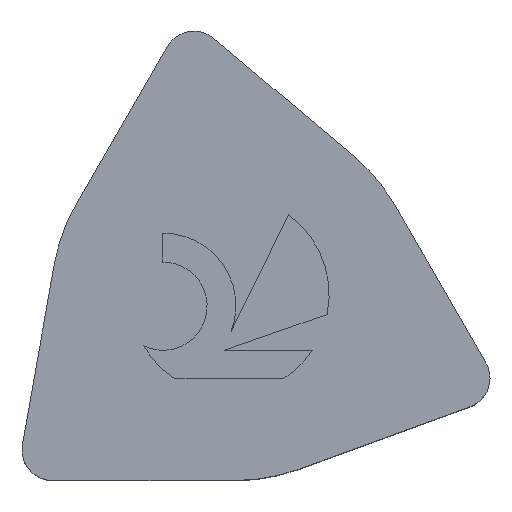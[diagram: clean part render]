
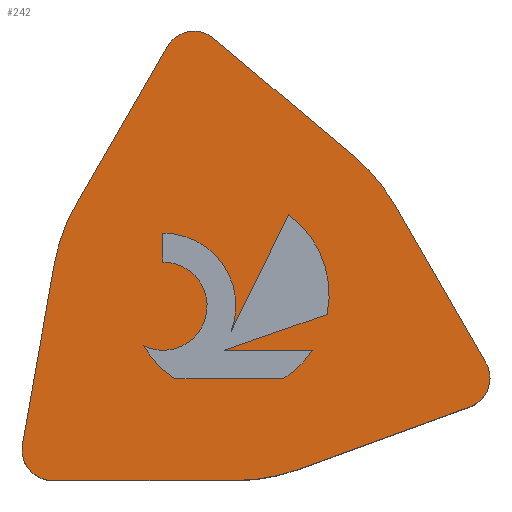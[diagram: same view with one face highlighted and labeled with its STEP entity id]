
A CAD part, top view. The second image highlights one B-rep face of the part: STEP entity #242.
In plain terms, the highlighted planar face has unit normal (0, 0, 1).
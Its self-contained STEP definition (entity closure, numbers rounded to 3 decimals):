
#166=VERTEX_POINT('',#466);
#170=VERTEX_POINT('',#471);
#172=VERTEX_POINT('',#473);
#174=EDGE_CURVE('',#428,#380,#475,.T.);
#176=VERTEX_POINT('',#477);
#180=VERTEX_POINT('',#482);
#186=VERTEX_POINT('',#488);
#188=EDGE_CURVE('',#426,#296,#490,.T.);
#190=EDGE_CURVE('',#442,#166,#492,.T.);
#210=VERTEX_POINT('',#515);
#214=VERTEX_POINT('',#519);
#218=VERTEX_POINT('',#523);
#220=EDGE_CURVE('',#268,#180,#525,.T.);
#222=EDGE_CURVE('',#422,#442,#527,.T.);
#228=VERTEX_POINT('',#533);
#230=EDGE_CURVE('',#180,#170,#535,.T.);
#234=EDGE_CURVE('',#210,#254,#539,.T.);
#242=ADVANCED_FACE('',(#548,#549),#550,.T.);
#250=EDGE_CURVE('',#366,#426,#558,.T.);
#254=VERTEX_POINT('',#562);
#264=EDGE_CURVE('',#254,#172,#573,.T.);
#266=EDGE_CURVE('',#218,#210,#575,.T.);
#268=VERTEX_POINT('',#577);
#272=EDGE_CURVE('',#332,#428,#581,.T.);
#288=EDGE_CURVE('',#214,#228,#599,.T.);
#296=VERTEX_POINT('',#609);
#312=EDGE_CURVE('',#166,#332,#626,.T.);
#314=EDGE_CURVE('',#186,#176,#628,.T.);
#316=EDGE_CURVE('',#296,#344,#630,.T.);
#332=VERTEX_POINT('',#650);
#344=VERTEX_POINT('',#662);
#354=EDGE_CURVE('',#380,#378,#674,.T.);
#358=VERTEX_POINT('',#678);
#366=VERTEX_POINT('',#687);
#372=EDGE_CURVE('',#228,#358,#693,.T.);
#378=VERTEX_POINT('',#700);
#380=VERTEX_POINT('',#702);
#396=EDGE_CURVE('',#172,#366,#719,.T.);
#414=EDGE_CURVE('',#358,#186,#741,.T.);
#416=EDGE_CURVE('',#176,#422,#743,.T.);
#418=EDGE_CURVE('',#344,#268,#745,.T.);
#422=VERTEX_POINT('',#749);
#426=VERTEX_POINT('',#753);
#428=VERTEX_POINT('',#755);
#432=EDGE_CURVE('',#378,#214,#759,.T.);
#442=VERTEX_POINT('',#769);
#444=EDGE_CURVE('',#170,#218,#771,.T.);
#466=CARTESIAN_POINT('',(8.737,8.411,0.0));
#471=CARTESIAN_POINT('',(4.316,5.535,0.0));
#473=CARTESIAN_POINT('',(7.06,6.885,0.0));
#475=LINE('',#793,#794);
#477=CARTESIAN_POINT('',(11.749,1.905,0.0));
#482=CARTESIAN_POINT('',(3.294,3.493,0.0));
#488=CARTESIAN_POINT('',(7.305,0.287,0.0));
#490=LINE('',#811,#812);
#492=CIRCLE('',#815,4.762);
#515=CARTESIAN_POINT('',(3.798,6.406,0.0));
#519=CARTESIAN_POINT('',(0.164,0.932,0.0));
#523=CARTESIAN_POINT('',(3.798,5.655,0.0));
#525=CIRCLE('',#863,2.586);
#527=LINE('',#866,#867);
#533=CARTESIAN_POINT('',(0.946,0.0,0.0));
#535=CIRCLE('',#877,1.141);
#539=CIRCLE('',#883,1.878);
#548=FACE_BOUND('',#895,.T.);
#549=FACE_OUTER_BOUND('',#896,.T.);
#550=PLANE('',#897);
#558=LINE('',#908,#909);
#562=CARTESIAN_POINT('',(5.565,3.853,0.0));
#573=LINE('',#927,#928);
#575=LINE('',#931,#932);
#577=CARTESIAN_POINT('',(4.112,2.64,0.0));
#581=CIRCLE('',#939,0.794);
#599=CIRCLE('',#966,0.794);
#609=CARTESIAN_POINT('',(7.674,3.376,0.0));
#626=LINE('',#1006,#1007);
#628=LINE('',#1010,#1011);
#630=CIRCLE('',#1014,2.586);
#650=CARTESIAN_POINT('',(5.114,11.451,0.0));
#662=CARTESIAN_POINT('',(6.93,2.64,0.0));
#674=CIRCLE('',#1070,4.763);
#678=CARTESIAN_POINT('',(5.676,0.0,0.0));
#687=CARTESIAN_POINT('',(8.057,4.302,0.0));
#693=LINE('',#1095,#1096);
#700=CARTESIAN_POINT('',(0.986,5.589,0.0));
#702=CARTESIAN_POINT('',(1.551,7.144,0.0));
#719=CIRCLE('',#1127,2.586);
#741=CIRCLE('',#1156,4.763);
#743=CIRCLE('',#1159,0.794);
#745=LINE('',#1162,#1163);
#749=CARTESIAN_POINT('',(12.165,3.048,0.0));
#753=CARTESIAN_POINT('',(5.39,3.376,0.0));
#755=CARTESIAN_POINT('',(3.916,11.24,0.0));
#759=LINE('',#1183,#1184);
#769=CARTESIAN_POINT('',(9.8,7.144,0.0));
#771=CIRCLE('',#1201,1.141);
#793=CARTESIAN_POINT('',(3.916,11.24,0.0));
#794=VECTOR('',#1215,1.0);
#811=CARTESIAN_POINT('',(6.675,3.376,0.0));
#812=VECTOR('',#1235,1.0);
#815=AXIS2_PLACEMENT_3D('',#1236,#1237,#1238);
#863=AXIS2_PLACEMENT_3D('',#1270,#1271,#1272);
#866=CARTESIAN_POINT('',(12.165,3.048,0.0));
#867=VECTOR('',#1273,1.0);
#877=AXIS2_PLACEMENT_3D('',#1277,#1278,#1279);
#883=AXIS2_PLACEMENT_3D('',#1283,#1284,#1285);
#895=EDGE_LOOP('',(#1299,#1300,#1301,#1302,#1303,#1304,#1305,#1306,#1307,#1308,#1309));
#896=EDGE_LOOP('',(#1310,#1311,#1312,#1313,#1314,#1315,#1316,#1317,#1318,#1319,#1320,#1321));
#897=AXIS2_PLACEMENT_3D('',#1322,#1323,#1324);
#908=CARTESIAN_POINT('',(5.732,3.495,0.0));
#909=VECTOR('',#1326,1.0);
#927=CARTESIAN_POINT('',(6.504,5.757,0.0));
#928=VECTOR('',#1336,1.0);
#931=CARTESIAN_POINT('',(3.798,5.584,0.0));
#932=VECTOR('',#1337,1.0);
#939=AXIS2_PLACEMENT_3D('',#1338,#1339,#1340);
#966=AXIS2_PLACEMENT_3D('',#1361,#1362,#1363);
#1006=CARTESIAN_POINT('',(8.737,8.411,0.0));
#1007=VECTOR('',#1394,1.0);
#1010=CARTESIAN_POINT('',(7.305,0.287,0.0));
#1011=VECTOR('',#1395,1.0);
#1014=AXIS2_PLACEMENT_3D('',#1396,#1397,#1398);
#1070=AXIS2_PLACEMENT_3D('',#1460,#1461,#1462);
#1095=CARTESIAN_POINT('',(0.946,0.0,0.0));
#1096=VECTOR('',#1475,1.0);
#1127=AXIS2_PLACEMENT_3D('',#1506,#1507,#1508);
#1156=AXIS2_PLACEMENT_3D('',#1544,#1545,#1546);
#1159=AXIS2_PLACEMENT_3D('',#1547,#1548,#1549);
#1162=CARTESIAN_POINT('',(4.894,2.64,0.0));
#1163=VECTOR('',#1550,1.0);
#1183=CARTESIAN_POINT('',(0.986,5.589,0.0));
#1184=VECTOR('',#1556,1.0);
#1201=AXIS2_PLACEMENT_3D('',#1564,#1565,#1566);
#1215=DIRECTION('',(-0.5,-0.866,0.0));
#1235=DIRECTION('',(1.0,0.0,0.0));
#1236=CARTESIAN_POINT('',(5.676,4.762,0.0));
#1237=DIRECTION('',(0.0,-0.0,1.0));
#1238=DIRECTION('',(0.866,0.5,0.0));
#1270=CARTESIAN_POINT('',(5.521,4.808,0.0));
#1271=DIRECTION('',(-0.0,0.0,-1.0));
#1272=DIRECTION('',(-0.861,-0.508,0.0));
#1273=DIRECTION('',(-0.5,0.866,0.0));
#1277=CARTESIAN_POINT('',(3.805,4.514,0.0));
#1278=DIRECTION('',(0.0,0.0,1.0));
#1279=DIRECTION('',(-0.447,-0.894,0.0));
#1283=CARTESIAN_POINT('',(3.812,4.528,0.0));
#1284=DIRECTION('',(0.0,-0.0,-1.0));
#1285=DIRECTION('',(0.933,-0.359,0.0));
#1299=ORIENTED_EDGE('',*,*,#266,.T.);
#1300=ORIENTED_EDGE('',*,*,#234,.T.);
#1301=ORIENTED_EDGE('',*,*,#264,.T.);
#1302=ORIENTED_EDGE('',*,*,#396,.T.);
#1303=ORIENTED_EDGE('',*,*,#250,.T.);
#1304=ORIENTED_EDGE('',*,*,#188,.T.);
#1305=ORIENTED_EDGE('',*,*,#316,.T.);
#1306=ORIENTED_EDGE('',*,*,#418,.T.);
#1307=ORIENTED_EDGE('',*,*,#220,.T.);
#1308=ORIENTED_EDGE('',*,*,#230,.T.);
#1309=ORIENTED_EDGE('',*,*,#444,.T.);
#1310=ORIENTED_EDGE('',*,*,#372,.T.);
#1311=ORIENTED_EDGE('',*,*,#414,.T.);
#1312=ORIENTED_EDGE('',*,*,#314,.T.);
#1313=ORIENTED_EDGE('',*,*,#416,.T.);
#1314=ORIENTED_EDGE('',*,*,#222,.T.);
#1315=ORIENTED_EDGE('',*,*,#190,.T.);
#1316=ORIENTED_EDGE('',*,*,#312,.T.);
#1317=ORIENTED_EDGE('',*,*,#272,.T.);
#1318=ORIENTED_EDGE('',*,*,#174,.T.);
#1319=ORIENTED_EDGE('',*,*,#354,.T.);
#1320=ORIENTED_EDGE('',*,*,#432,.T.);
#1321=ORIENTED_EDGE('',*,*,#288,.T.);
#1322=CARTESIAN_POINT('',(5.676,4.763,0.0));
#1323=DIRECTION('',(0.0,0.0,1.0));
#1324=DIRECTION('',(1.0,0.0,0.0));
#1326=DIRECTION('',(-0.945,-0.328,0.0));
#1336=DIRECTION('',(0.442,0.897,-0.0));
#1337=DIRECTION('',(0.0,1.0,0.0));
#1338=CARTESIAN_POINT('',(4.604,10.843,0.0));
#1339=DIRECTION('',(0.0,-0.0,1.0));
#1340=DIRECTION('',(0.643,0.766,0.0));
#1361=CARTESIAN_POINT('',(0.946,0.794,0.0));
#1362=DIRECTION('',(0.0,0.0,1.0));
#1363=DIRECTION('',(-0.985,0.174,0.0));
#1394=DIRECTION('',(-0.766,0.643,0.0));
#1395=DIRECTION('',(0.94,0.342,0.0));
#1396=CARTESIAN_POINT('',(5.521,4.808,0.0));
#1397=DIRECTION('',(0.0,-0.0,-1.0));
#1398=DIRECTION('',(0.545,-0.838,0.0));
#1460=CARTESIAN_POINT('',(5.676,4.762,0.0));
#1461=DIRECTION('',(0.0,0.0,1.0));
#1462=DIRECTION('',(-0.866,0.5,0.0));
#1475=DIRECTION('',(1.0,0.0,0.0));
#1506=CARTESIAN_POINT('',(5.521,4.808,0.0));
#1507=DIRECTION('',(0.0,-0.0,-1.0));
#1508=DIRECTION('',(0.981,-0.196,0.0));
#1544=CARTESIAN_POINT('',(5.676,4.763,0.0));
#1545=DIRECTION('',(0.0,0.0,1.0));
#1546=DIRECTION('',(0.,-1.0,0.0));
#1547=CARTESIAN_POINT('',(11.477,2.651,0.0));
#1548=DIRECTION('',(0.0,0.0,1.0));
#1549=DIRECTION('',(0.342,-0.94,0.0));
#1550=DIRECTION('',(-1.0,0.0,0.0));
#1556=DIRECTION('',(-0.174,-0.985,0.0));
#1564=CARTESIAN_POINT('',(3.805,4.514,0.0));
#1565=DIRECTION('',(0.0,0.0,1.0));
#1566=DIRECTION('',(-0.447,-0.894,0.0));
